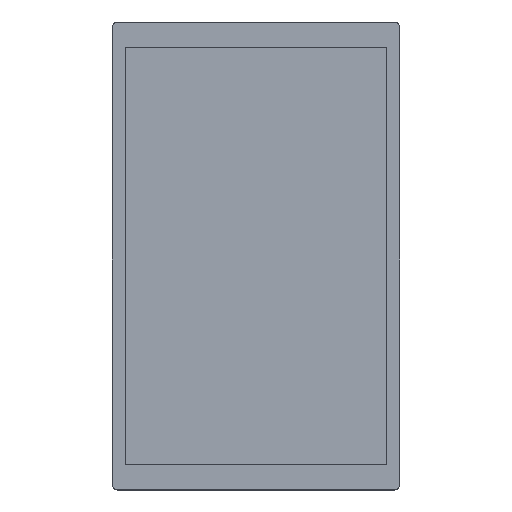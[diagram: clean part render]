
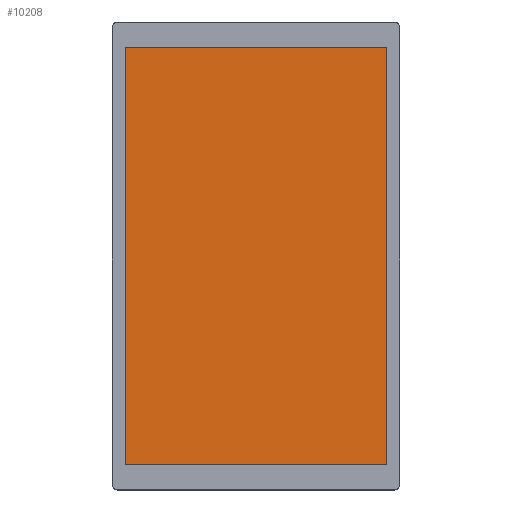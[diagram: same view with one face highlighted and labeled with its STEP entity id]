
A CAD part, top view. The second image highlights one B-rep face of the part: STEP entity #10208.
In plain terms, the highlighted planar face has unit normal (0, 0, 1).
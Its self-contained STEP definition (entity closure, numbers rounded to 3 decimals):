
#9405=DIRECTION('',(-1.,0.,0.));
#9406=VECTOR('',#9405,108.24);
#9407=CARTESIAN_POINT('',(54.12,86.41,4.75));
#9408=LINE('',#9407,#9406);
#9413=DIRECTION('',(0.,1.,0.));
#9414=VECTOR('',#9413,172.82);
#9415=CARTESIAN_POINT('',(54.12,-86.41,4.75));
#9416=LINE('',#9415,#9414);
#9421=DIRECTION('',(1.,0.,0.));
#9422=VECTOR('',#9421,108.24);
#9423=CARTESIAN_POINT('',(-54.12,-86.41,4.75));
#9424=LINE('',#9423,#9422);
#9429=DIRECTION('',(0.,-1.,0.));
#9430=VECTOR('',#9429,172.82);
#9431=CARTESIAN_POINT('',(-54.12,86.41,4.75));
#9432=LINE('',#9431,#9430);
#9631=CARTESIAN_POINT('',(54.12,86.41,4.75));
#9632=CARTESIAN_POINT('',(-54.12,86.41,4.75));
#9633=VERTEX_POINT('',#9631);
#9634=VERTEX_POINT('',#9632);
#9635=CARTESIAN_POINT('',(54.12,-86.41,4.75));
#9636=VERTEX_POINT('',#9635);
#9637=CARTESIAN_POINT('',(-54.12,-86.41,4.75));
#9638=VERTEX_POINT('',#9637);
#10194=CARTESIAN_POINT('',(0.,0.,4.75));
#10195=DIRECTION('',(0.,0.,-1.));
#10196=DIRECTION('',(-1.,0.,0.));
#10197=AXIS2_PLACEMENT_3D('',#10194,#10195,#10196);
#10198=PLANE('',#10197);
#10199=ORIENTED_EDGE('',*,*,#10177,.F.);
#10201=ORIENTED_EDGE('',*,*,#10200,.F.);
#10203=ORIENTED_EDGE('',*,*,#10202,.F.);
#10205=ORIENTED_EDGE('',*,*,#10204,.F.);
#10206=EDGE_LOOP('',(#10199,#10201,#10203,#10205));
#10207=FACE_OUTER_BOUND('',#10206,.F.);
#10208=ADVANCED_FACE('',(#10207),#10198,.F.);
#10177=EDGE_CURVE('',#9633,#9634,#9408,.T.);
#10200=EDGE_CURVE('',#9636,#9633,#9416,.T.);
#10202=EDGE_CURVE('',#9638,#9636,#9424,.T.);
#10204=EDGE_CURVE('',#9634,#9638,#9432,.T.);
